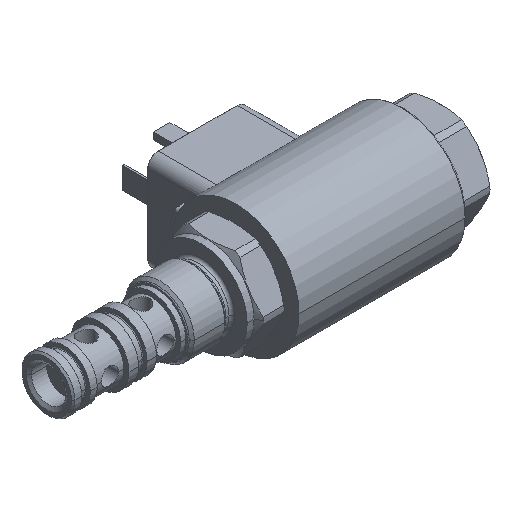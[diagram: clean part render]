
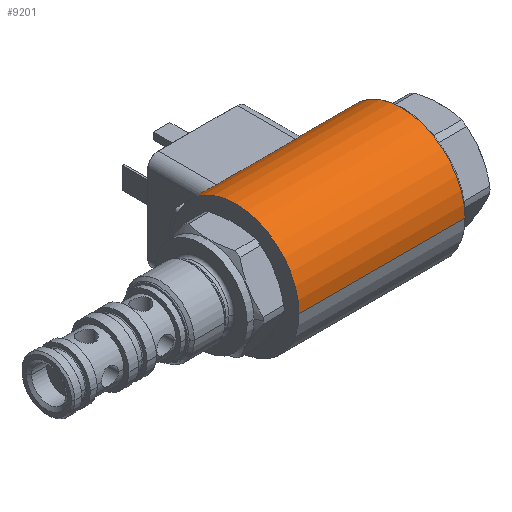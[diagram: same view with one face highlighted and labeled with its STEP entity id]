
A CAD part, isometric view. The second image highlights one B-rep face of the part: STEP entity #9201.
In plain terms, the highlighted cylindrical face has radius 18.5 mm (diameter 37 mm), a partial arc.
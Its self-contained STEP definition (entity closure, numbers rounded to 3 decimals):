
#6570=CARTESIAN_POINT('',(0.,0.,0.));
#6571=DIRECTION('',(1.,0.,0.));
#6572=DIRECTION('',(0.,1.,0.));
#6573=AXIS2_PLACEMENT_3D('',#6570,#6571,#6572);
#6609=DIRECTION('',(-1.,0.,0.));
#6610=VECTOR('',#6609,0.5);
#6611=CARTESIAN_POINT('',(0.5,18.5,0.));
#6612=LINE('',#6611,#6610);
#6616=DIRECTION('',(-1.,0.,0.));
#6617=VECTOR('',#6616,48.368);
#6618=CARTESIAN_POINT('',(48.368,-18.5,0.));
#6619=LINE('',#6618,#6617);
#6631=DIRECTION('',(-1.,0.,0.));
#6632=VECTOR('',#6631,16.368);
#6633=CARTESIAN_POINT('',(48.368,18.5,0.));
#6634=LINE('',#6633,#6632);
#6800=CARTESIAN_POINT('',(1.5,16.608,8.15));
#6801=CARTESIAN_POINT('',(1.468,16.608,8.15));
#6802=CARTESIAN_POINT('',(1.402,16.61,8.147));
#6803=CARTESIAN_POINT('',(1.304,16.617,8.132));
#6804=CARTESIAN_POINT('',(1.206,16.629,8.108));
#6805=CARTESIAN_POINT('',(1.112,16.645,8.074));
#6806=CARTESIAN_POINT('',(1.021,16.666,8.03));
#6807=CARTESIAN_POINT('',(0.933,16.692,7.976));
#6808=CARTESIAN_POINT('',(0.851,16.722,7.913));
#6809=CARTESIAN_POINT('',(0.775,16.756,7.841));
#6810=CARTESIAN_POINT('',(0.705,16.794,7.76));
#6811=CARTESIAN_POINT('',(0.644,16.835,7.671));
#6812=CARTESIAN_POINT('',(0.593,16.878,7.575));
#6813=CARTESIAN_POINT('',(0.552,16.923,7.475));
#6814=CARTESIAN_POINT('',(0.522,16.969,7.369));
#6815=CARTESIAN_POINT('',(0.504,17.016,7.26));
#6816=CARTESIAN_POINT('',(0.5,17.047,7.187));
#6817=CARTESIAN_POINT('',(0.5,17.062,7.15));
#7505=CARTESIAN_POINT('',(0.5,0.,0.));
#7506=DIRECTION('',(1.,0.,0.));
#7507=DIRECTION('',(0.,1.,0.));
#7508=AXIS2_PLACEMENT_3D('',#7505,#7506,#7507);
#7513=DIRECTION('',(1.,0.,0.));
#7514=VECTOR('',#7513,1.5);
#7515=CARTESIAN_POINT('',(1.5,16.608,8.15));
#7516=LINE('',#7515,#7514);
#7520=CARTESIAN_POINT('',(3.,0.,0.));
#7521=DIRECTION('',(1.,0.,0.));
#7522=DIRECTION('',(0.,0.898,0.441));
#7523=AXIS2_PLACEMENT_3D('',#7520,#7521,#7522);
#7528=CARTESIAN_POINT('',(3.,14.491,11.5));
#7529=CARTESIAN_POINT('',(3.,14.417,11.594));
#7530=CARTESIAN_POINT('',(3.009,14.263,11.784));
#7531=CARTESIAN_POINT('',(3.051,14.016,12.077));
#7532=CARTESIAN_POINT('',(3.122,13.762,12.366));
#7533=CARTESIAN_POINT('',(3.223,13.504,12.647));
#7534=CARTESIAN_POINT('',(3.35,13.247,12.916));
#7535=CARTESIAN_POINT('',(3.5,12.997,13.167));
#7536=CARTESIAN_POINT('',(3.669,12.761,13.396));
#7537=CARTESIAN_POINT('',(3.854,12.54,13.602));
#7538=CARTESIAN_POINT('',(4.05,12.339,13.785));
#7539=CARTESIAN_POINT('',(4.252,12.16,13.943));
#7540=CARTESIAN_POINT('',(4.458,12.004,14.077));
#7541=CARTESIAN_POINT('',(4.662,11.872,14.188));
#7542=CARTESIAN_POINT('',(4.863,11.763,14.279));
#7543=CARTESIAN_POINT('',(5.06,11.674,14.352));
#7544=CARTESIAN_POINT('',(5.254,11.604,14.408));
#7545=CARTESIAN_POINT('',(5.444,11.552,14.45));
#7546=CARTESIAN_POINT('',(5.63,11.515,14.479));
#7547=CARTESIAN_POINT('',(5.816,11.494,14.496));
#7548=CARTESIAN_POINT('',(5.939,11.489,14.5));
#7549=CARTESIAN_POINT('',(6.,11.489,14.5));
#7554=DIRECTION('',(1.,0.,0.));
#7555=VECTOR('',#7554,23.);
#7556=CARTESIAN_POINT('',(6.,11.489,14.5));
#7557=LINE('',#7556,#7555);
#7561=CARTESIAN_POINT('',(29.,11.489,14.5));
#7562=CARTESIAN_POINT('',(29.061,11.489,14.5));
#7563=CARTESIAN_POINT('',(29.184,11.494,14.496));
#7564=CARTESIAN_POINT('',(29.37,11.515,14.479));
#7565=CARTESIAN_POINT('',(29.556,11.552,14.45));
#7566=CARTESIAN_POINT('',(29.746,11.604,14.408));
#7567=CARTESIAN_POINT('',(29.94,11.674,14.352));
#7568=CARTESIAN_POINT('',(30.137,11.763,14.279));
#7569=CARTESIAN_POINT('',(30.338,11.872,14.188));
#7570=CARTESIAN_POINT('',(30.542,12.004,14.077));
#7571=CARTESIAN_POINT('',(30.748,12.16,13.943));
#7572=CARTESIAN_POINT('',(30.95,12.339,13.785));
#7573=CARTESIAN_POINT('',(31.146,12.54,13.602));
#7574=CARTESIAN_POINT('',(31.331,12.761,13.395));
#7575=CARTESIAN_POINT('',(31.5,12.997,13.167));
#7576=CARTESIAN_POINT('',(31.65,13.247,12.916));
#7577=CARTESIAN_POINT('',(31.777,13.504,12.647));
#7578=CARTESIAN_POINT('',(31.878,13.762,12.366));
#7579=CARTESIAN_POINT('',(31.949,14.016,12.077));
#7580=CARTESIAN_POINT('',(31.991,14.263,11.784));
#7581=CARTESIAN_POINT('',(32.,14.417,11.594));
#7582=CARTESIAN_POINT('',(32.,14.491,11.5));
#7587=CARTESIAN_POINT('',(32.,0.,0.));
#7588=DIRECTION('',(1.,0.,0.));
#7589=DIRECTION('',(0.,1.,0.));
#7590=AXIS2_PLACEMENT_3D('',#7587,#7588,#7589);
#7595=CARTESIAN_POINT('',(48.368,0.,0.));
#7596=DIRECTION('',(1.,0.,0.));
#7597=DIRECTION('',(0.,1.,0.));
#7598=AXIS2_PLACEMENT_3D('',#7595,#7596,#7597);
#7837=CARTESIAN_POINT('',(48.368,-18.5,0.));
#7838=CARTESIAN_POINT('',(0.,-18.5,0.));
#7839=VERTEX_POINT('',#7837);
#7840=VERTEX_POINT('',#7838);
#7841=CARTESIAN_POINT('',(6.,11.489,14.5));
#7842=CARTESIAN_POINT('',(29.,11.489,14.5));
#7843=VERTEX_POINT('',#7841);
#7844=VERTEX_POINT('',#7842);
#7845=VERTEX_POINT('',#7582);
#7846=CARTESIAN_POINT('',(32.,18.5,0.));
#7847=VERTEX_POINT('',#7846);
#7848=VERTEX_POINT('',#7528);
#7855=CARTESIAN_POINT('',(48.368,18.5,0.));
#7856=VERTEX_POINT('',#7855);
#7937=CARTESIAN_POINT('',(0.,18.5,0.));
#7938=VERTEX_POINT('',#7937);
#7991=CARTESIAN_POINT('',(3.,16.608,8.15));
#7992=VERTEX_POINT('',#7991);
#7995=CARTESIAN_POINT('',(1.5,16.608,8.15));
#7996=VERTEX_POINT('',#7995);
#7997=CARTESIAN_POINT('',(0.5,17.062,7.15));
#7998=VERTEX_POINT('',#7997);
#8006=CARTESIAN_POINT('',(0.5,18.5,0.));
#8007=VERTEX_POINT('',#8006);
#9176=CARTESIAN_POINT('',(-2.47,0.,0.));
#9177=DIRECTION('',(1.,0.,0.));
#9178=DIRECTION('',(0.,-1.,0.));
#9179=AXIS2_PLACEMENT_3D('',#9176,#9177,#9178);
#9180=CYLINDRICAL_SURFACE('',#9179,18.5);
#9182=ORIENTED_EDGE('',*,*,#9181,.T.);
#9183=ORIENTED_EDGE('',*,*,#8188,.F.);
#9184=ORIENTED_EDGE('',*,*,#8216,.T.);
#9185=ORIENTED_EDGE('',*,*,#8242,.T.);
#9187=ORIENTED_EDGE('',*,*,#9186,.T.);
#9189=ORIENTED_EDGE('',*,*,#9188,.T.);
#9191=ORIENTED_EDGE('',*,*,#9190,.T.);
#9192=ORIENTED_EDGE('',*,*,#9157,.F.);
#9193=ORIENTED_EDGE('',*,*,#8075,.F.);
#9195=ORIENTED_EDGE('',*,*,#9194,.T.);
#9196=ORIENTED_EDGE('',*,*,#8071,.T.);
#9197=ORIENTED_EDGE('',*,*,#8039,.F.);
#9198=ORIENTED_EDGE('',*,*,#8068,.F.);
#9199=EDGE_LOOP('',(#9182,#9183,#9184,#9185,#9187,#9189,#9191,#9192,#9193,#9195,
#9196,#9197,#9198));
#9200=FACE_OUTER_BOUND('',#9199,.F.);
#6574=CIRCLE('',#6573,18.5);
#6818=B_SPLINE_CURVE_WITH_KNOTS('',3,(#6800,#6801,#6802,#6803,#6804,#6805,#6806,
#6807,#6808,#6809,#6810,#6811,#6812,#6813,#6814,#6815,#6816,#6817),
.UNSPECIFIED.,.F.,.F.,(4,1,1,1,1,1,1,1,1,1,1,1,1,1,1,4),(0.,0.067,
0.133,0.2,0.267,0.333,0.4,
0.467,0.533,0.6,0.667,0.733,
0.8,0.867,0.933,1.),.UNSPECIFIED.);
#7509=CIRCLE('',#7508,18.5);
#7524=CIRCLE('',#7523,18.5);
#7550=B_SPLINE_CURVE_WITH_KNOTS('',3,(#7528,#7529,#7530,#7531,#7532,#7533,#7534,
#7535,#7536,#7537,#7538,#7539,#7540,#7541,#7542,#7543,#7544,#7545,#7546,#7547,
#7548,#7549),.UNSPECIFIED.,.F.,.F.,(4,1,1,1,1,1,1,1,1,1,1,1,1,1,1,1,1,1,1,4),(
0.,0.053,0.105,0.158,0.211,
0.263,0.316,0.368,0.421,
0.474,0.526,0.579,0.632,
0.684,0.737,0.789,0.842,
0.895,0.947,1.),.UNSPECIFIED.);
#7583=B_SPLINE_CURVE_WITH_KNOTS('',3,(#7561,#7562,#7563,#7564,#7565,#7566,#7567,
#7568,#7569,#7570,#7571,#7572,#7573,#7574,#7575,#7576,#7577,#7578,#7579,#7580,
#7581,#7582),.UNSPECIFIED.,.F.,.F.,(4,1,1,1,1,1,1,1,1,1,1,1,1,1,1,1,1,1,1,4),(
0.,0.053,0.105,0.158,0.211,
0.263,0.316,0.368,0.421,
0.474,0.526,0.579,0.632,
0.684,0.737,0.789,0.842,
0.895,0.947,1.),.UNSPECIFIED.);
#7591=CIRCLE('',#7590,18.5);
#7599=CIRCLE('',#7598,18.5);
#8039=EDGE_CURVE('',#7938,#7840,#6574,.T.);
#8068=EDGE_CURVE('',#8007,#7938,#6612,.T.);
#8071=EDGE_CURVE('',#7839,#7840,#6619,.T.);
#8075=EDGE_CURVE('',#7856,#7847,#6634,.T.);
#8188=EDGE_CURVE('',#7996,#7998,#6818,.T.);
#8216=EDGE_CURVE('',#7996,#7992,#7516,.T.);
#8242=EDGE_CURVE('',#7992,#7848,#7524,.T.);
#9157=EDGE_CURVE('',#7847,#7845,#7591,.T.);
#9181=EDGE_CURVE('',#8007,#7998,#7509,.T.);
#9186=EDGE_CURVE('',#7848,#7843,#7550,.T.);
#9188=EDGE_CURVE('',#7843,#7844,#7557,.T.);
#9190=EDGE_CURVE('',#7844,#7845,#7583,.T.);
#9194=EDGE_CURVE('',#7856,#7839,#7599,.T.);
#9201=ADVANCED_FACE('',(#9200),#9180,.T.);
